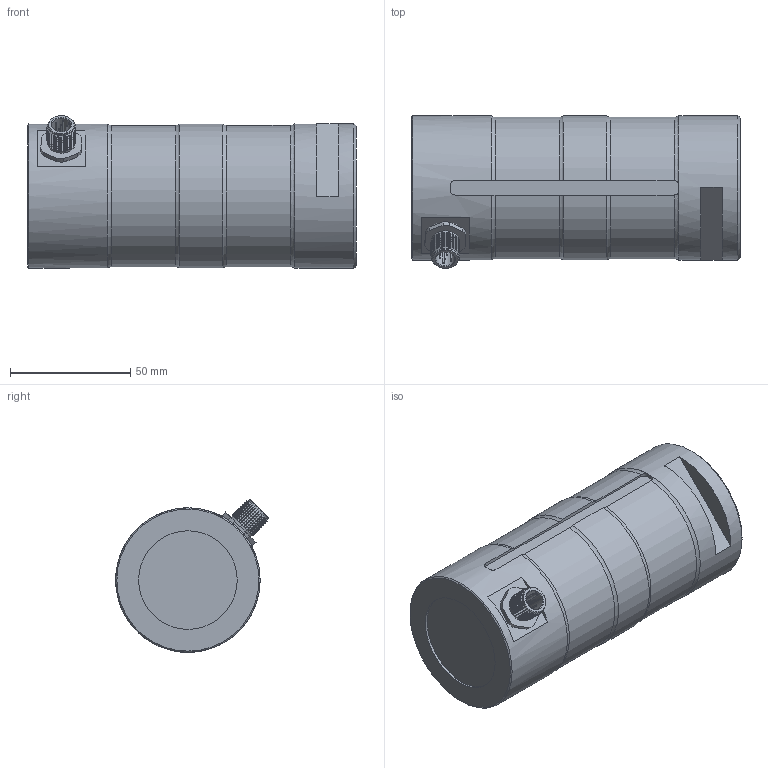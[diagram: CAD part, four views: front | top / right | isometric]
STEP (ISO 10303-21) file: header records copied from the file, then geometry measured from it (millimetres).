
FILE_DESCRIPTION(/* description */ ('Alibre Inc.'),/* implementation_level */ '2;1');
FILE_NAME(/* name */ 'export-AAEABBC6-2F7D-4359-9185-DC628C48214D',/* time_stamp */ '2020-02-20T14:11:26+01:00',/* author */ (''),/* organization */ (''),/* preprocessor_version */ 'ST-DEVELOPER v17',/* originating_system */ 'Alibre',/* authorisation */ '');
FILE_SCHEMA (('CONFIG_CONTROL_DESIGN'));
Length unit declared in the file: centimetre
Bounding box: 136.5 x 63.41 x 63.41 mm (x, y, z)
Volume: 502259.2 mm3; surface area: 186404.2 mm2
Topology: 7 solids, 8 shells, 207 faces, 449 edges, 266 vertices
Faces by surface type: cone 71, cylinder 69, plane 57, torus 10
Full cylindrical faces by diameter (mm): 0.5 x10, 8 x2, 10 x1, 11 x1, 11.5 x1, 12 x21, 13 x2, 14.5 x1, 41 x1, 60 x2
Entity records: 4925 total; most frequent: CARTESIAN_POINT 1065, ORIENTED_EDGE 694, DIRECTION 632, EDGE_CURVE 341, EDGE_LOOP 321, FACE_BOUND 321, AXIS2_PLACEMENT_3D 297, VERTEX_POINT 252
